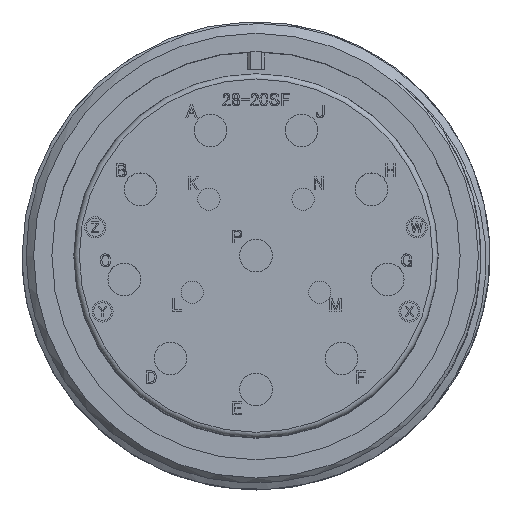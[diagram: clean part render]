
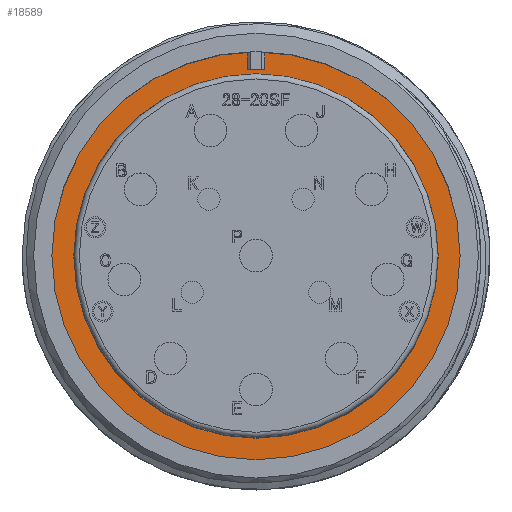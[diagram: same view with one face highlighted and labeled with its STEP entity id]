
A CAD part, top view. The second image highlights one B-rep face of the part: STEP entity #18589.
In plain terms, the highlighted planar face has unit normal (0, 0, 1).
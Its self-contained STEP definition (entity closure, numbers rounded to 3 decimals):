
#1468 = AXIS2_PLACEMENT_3D ( 'NONE', #18290, #22191, #40519 ) ;
#2108 = VERTEX_POINT ( 'NONE', #27625 ) ;
#4662 = DIRECTION ( 'NONE',  ( 1., 0., 0. ) ) ;
#10735 = CIRCLE ( 'NONE', #27408, 19.375 ) ;
#13059 = EDGE_LOOP ( 'NONE', ( #35925 ) ) ;
#18290 = CARTESIAN_POINT ( 'NONE',  ( 0., 0., -19.18 ) ) ;
#18589 = ADVANCED_FACE ( 'NONE', ( #45079, #20680 ), #38805, .T. ) ;
#19062 = EDGE_CURVE ( 'NONE', #2108, #2108, #10735, .T. ) ;
#20286 = CARTESIAN_POINT ( 'NONE',  ( 0., 17.3, -19.18 ) ) ;
#20680 = FACE_OUTER_BOUND ( 'NONE', #13059, .T. ) ;
#22191 = DIRECTION ( 'NONE',  ( 0., 0., -1. ) ) ;
#25150 = EDGE_CURVE ( 'NONE', #31224, #31224, #43318, .T. ) ;
#26001 = DIRECTION ( 'NONE',  ( -1., 0., 0. ) ) ;
#27280 = DIRECTION ( 'NONE',  ( 0., 0., 1. ) ) ;
#27408 = AXIS2_PLACEMENT_3D ( 'NONE', #33182, #36752, #26001 ) ;
#27625 = CARTESIAN_POINT ( 'NONE',  ( -19.375, 0., -19.18 ) ) ;
#31224 = VERTEX_POINT ( 'NONE', #46759 ) ;
#33182 = CARTESIAN_POINT ( 'NONE',  ( 0., 0., -19.18 ) ) ;
#33210 = EDGE_LOOP ( 'NONE', ( #42457 ) ) ;
#35925 = ORIENTED_EDGE ( 'NONE', *, *, #19062, .F. ) ;
#36752 = DIRECTION ( 'NONE',  ( 0., 0., -1. ) ) ;
#38303 = AXIS2_PLACEMENT_3D ( 'NONE', #20286, #27280, #4662 ) ;
#38805 = PLANE ( 'NONE',  #38303 ) ;
#40519 = DIRECTION ( 'NONE',  ( -1., 0., 0. ) ) ;
#42457 = ORIENTED_EDGE ( 'NONE', *, *, #25150, .T. ) ;
#43318 = CIRCLE ( 'NONE', #1468, 17.3 ) ;
#45079 = FACE_BOUND ( 'NONE', #33210, .T. ) ;
#46759 = CARTESIAN_POINT ( 'NONE',  ( -17.3, 0., -19.18 ) ) ;
